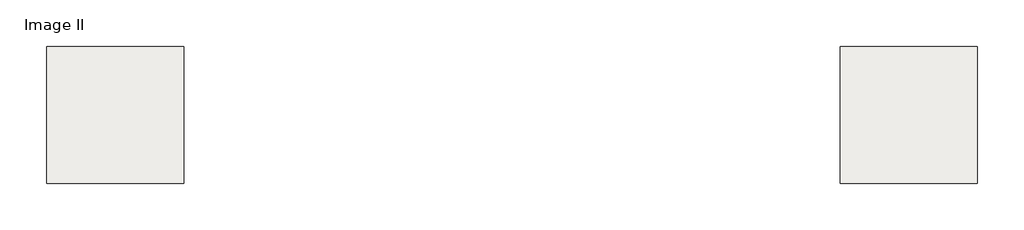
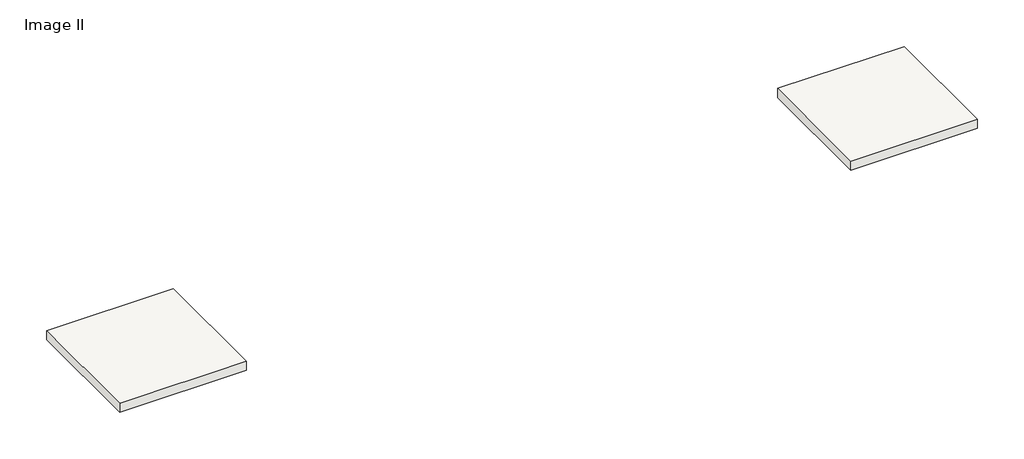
# One storey: 2 roofs.
"""IFC4 building model written with IfcOpenShell, lengths in millimetres."""

from ifc_helpers import new_model, si_unit, frame, origin, place, context, project, spatial, polyline, outline, extrude, element, save

model = new_model("IFC4")

# Units and contexts
model_context = context("Model", 3, world=origin())
ifc_project = project(units=[si_unit("LENGTHUNIT", "METRE", prefix="MILLI")], contexts=[model_context])

# Site, building, storey
site = spatial("IfcSite", under=ifc_project)
building = spatial("IfcBuilding", under=site)
storey = spatial("IfcBuildingStorey", under=building, Name="Image II", Elevation=5486.4)

# Roofs
placement = place(None, origin())
element("IfcRoof", 1, ObjectType="Image II 12\" OC - Solid Substrate", at=placement, inside=storey, context=model_context, shape_type="SweptSolid", body=[
    extrude(outline(polyline([(-35444.2656308, 19652.5817436), (-32396.2656308, 19652.5817436), (-32396.2656308, 16604.5817436), (-35444.2656308, 16604.5817436), (-35444.2656308, 19652.5817436)])), frame((0.0, 0.0, 5486.4), z_axis=(0.0, 0.0, 1.0), x_axis=(1.0, 0.0, 0.0)), (0.0, 0.0, 1.0), 231.775),
])
element("IfcRoof", 2, ObjectType="Image II 16\" OC - Solid Substrate", at=placement, inside=storey, context=model_context, shape_type="SweptSolid", body=[
    extrude(outline(polyline([(-17838.4406979, 19652.5817436), (-14790.4406979, 19652.5817436), (-14790.4406979, 16604.5817436), (-17838.4406979, 16604.5817436), (-17838.4406979, 19652.5817436)])), frame((0.0, 0.0, 5486.4), z_axis=(0.0, 0.0, 1.0), x_axis=(1.0, 0.0, 0.0)), (0.0, 0.0, 1.0), 231.775),
])

save(model, "model.ifc")
